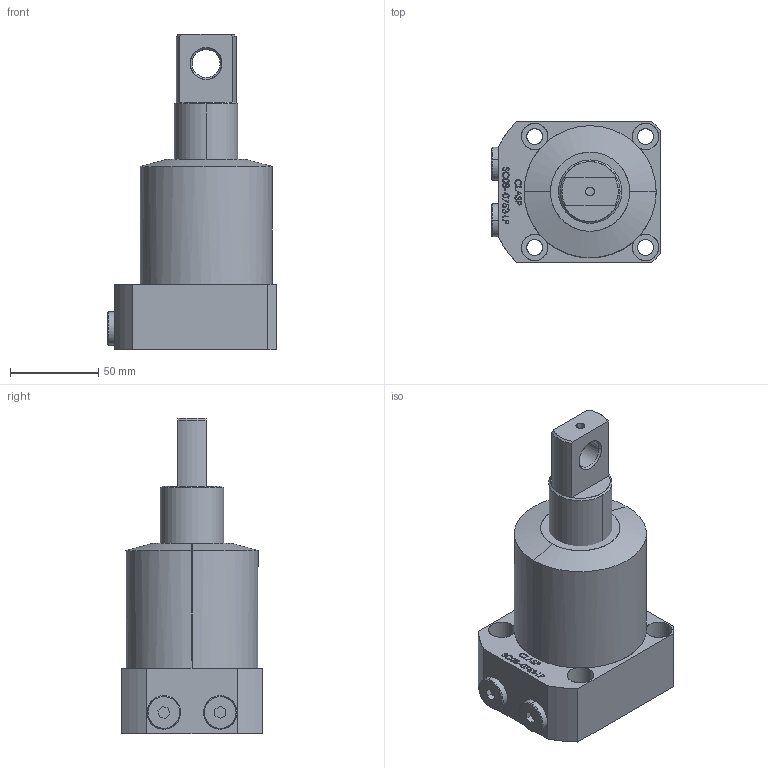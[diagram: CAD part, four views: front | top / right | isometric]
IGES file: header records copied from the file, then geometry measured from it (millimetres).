
Start section: SolidWorks IGES file using analytic representation for surfaces
Global section: file name: D:\karuppas\Clasp\3D model\SWING CYLINDER\Bottom Mounting swing cylinder-P type\SC08-0752-LP\SC08-0752-LP.IGS; native system: SolidWorks 2017; preprocessor: SolidWorks 2017; author: pc; date: 220708.223443; units: millimetre
Bounding box: 96 x 80 x 179 mm (x, y, z)
Surface area: 63027.8 mm2 (no closed solid volume)
Topology: 0 solids, 0 shells, 329 faces, 5175 edges, 5175 vertices
Faces by surface type: bspline 261, revolution 68
